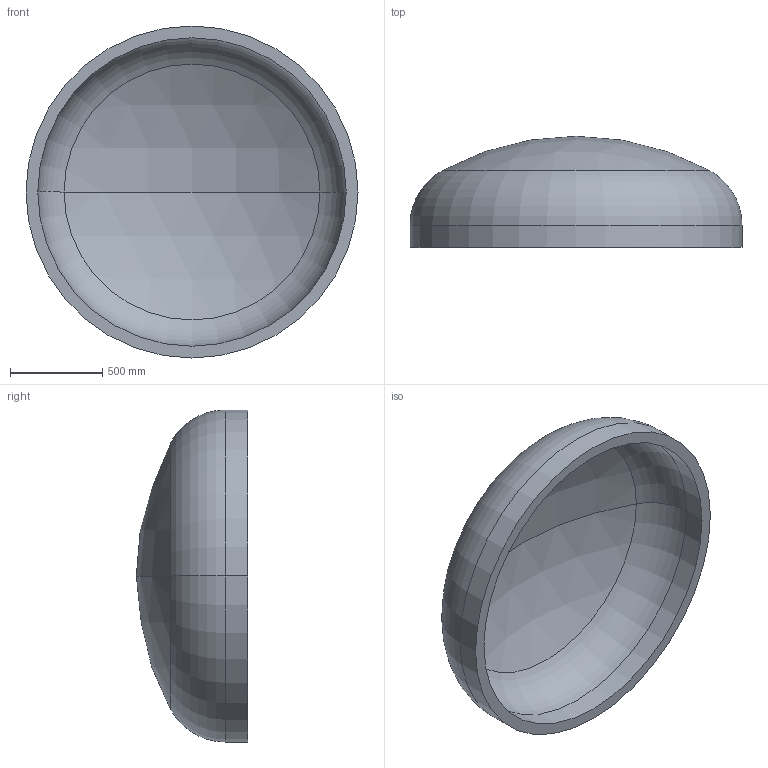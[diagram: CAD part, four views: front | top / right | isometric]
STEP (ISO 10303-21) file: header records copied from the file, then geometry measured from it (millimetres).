
FILE_DESCRIPTION (( 'STEP AP203' ), '1' );
FILE_NAME ('DIN 28013 Korbbogenform_-_Boden DIN 28013 - 1800 x 120 - I - s=64.step', '2016-07-01T12:36:53', ( '' ), ( '' ), 'SwSTEP 2.0', 'SolidWorks 2013', '' );
FILE_SCHEMA (( 'CONFIG_CONTROL_DESIGN' ));
Length unit declared in the file: millimetre
Products named in the file (1): DIN 28013 Korbbogenform_-_Boden DIN 28013 - 1800 x 120 - I - s=64
Bounding box: 1800 x 602.97 x 1800 mm (x, y, z)
Volume: 256906890.3 mm3; surface area: 8385960.2 mm2
Topology: 1 solids, 1 shells, 13 faces, 24 edges, 14 vertices
Faces by surface type: torus 4, cylinder 4, sphere 4, plane 1
Entity records: 407 total; most frequent: DIRECTION 72, CARTESIAN_POINT 52, ORIENTED_EDGE 48, AXIS2_PLACEMENT_3D 34, EDGE_CURVE 24, CIRCLE 20, VERTEX_POINT 14, EDGE_LOOP 14
